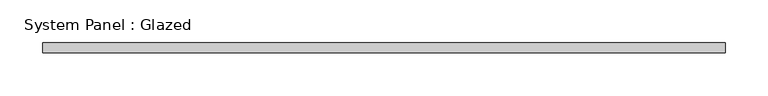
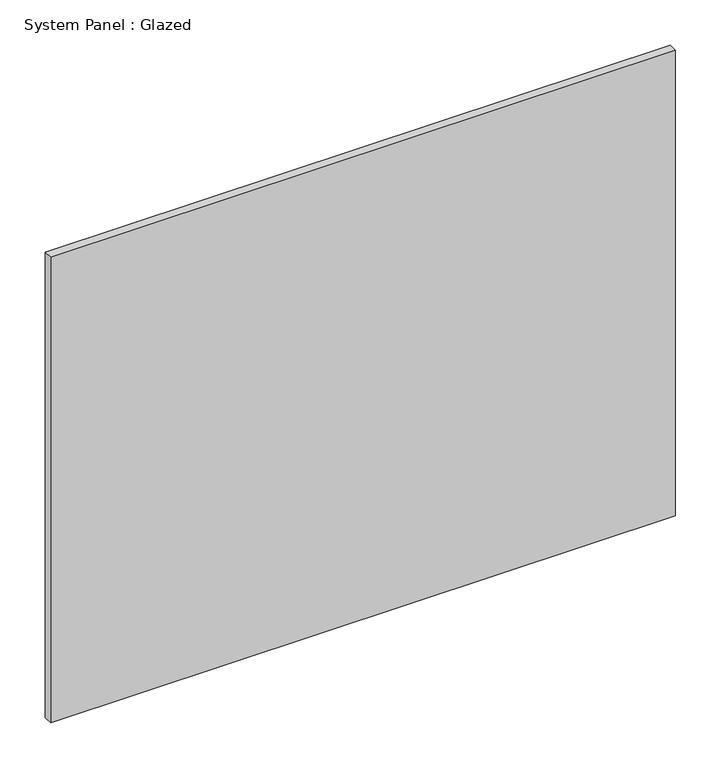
"""IFC4 building model written with IfcOpenShell, lengths in millimetres: plate geometry, System Panel : Glazed."""

from ifc_helpers import new_model, si_unit, origin, origin_with_axes, place, context, project, spatial, polyline, outline, extrude, source, transform, mapped, element, save


def system_panel_glazed_32e3a640(model_context):
    return source(origin(), model_context, "Body", "SweptSolid", [
        extrude(outline(polyline([(400.000002, 4.0), (-400.000002, 4.0), (-400.000002, 16.0), (400.000002, 16.0), (400.000002, 4.0)])), origin_with_axes(), (0.0, 0.0, 1.0), 630.0),
    ])


if __name__ == "__main__":
    model = new_model("IFC4")
    model_context = context("Model", 3, world=origin())
    ifc_project = project(units=[si_unit("LENGTHUNIT", "METRE", prefix="MILLI")], contexts=[model_context])
    site = spatial("IfcSite", under=ifc_project)
    building = spatial("IfcBuilding", under=site)
    placement = place(None, origin())
    system_panel_glazed_shape = system_panel_glazed_32e3a640(model_context)
    element("IfcPlate", 1, ObjectType="System Panel : Glazed", at=placement, inside=building, context=model_context, shape_type="MappedRepresentation", body=[
        mapped(system_panel_glazed_shape, transform((0.0, 0.0, 0.0), x_axis=(1.0, 0.0, 0.0), y_axis=(0.0, 1.0, 0.0), z_axis=(0.0, 0.0, 1.0))),
    ])
    save(model, "model.ifc")
